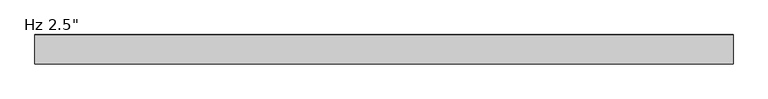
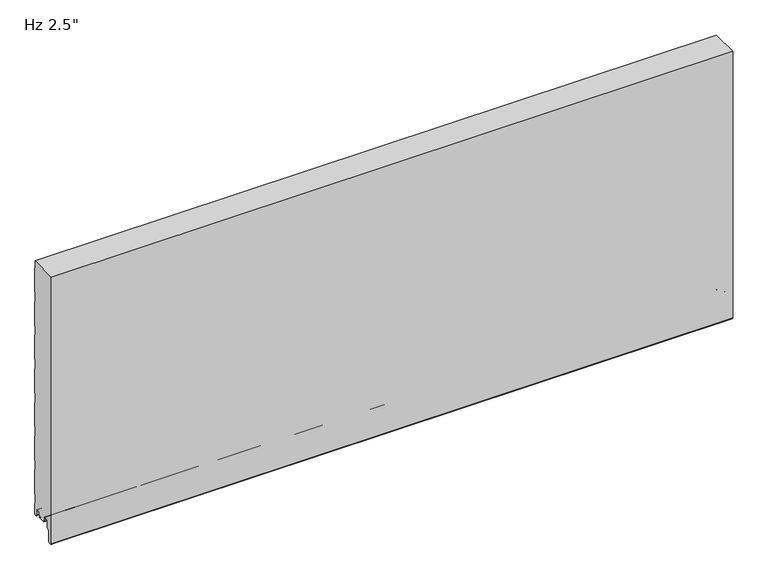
"""IFC4 building model written with IfcOpenShell, lengths in millimetres: plate geometry."""

from ifc_helpers import new_model, si_unit, frame, origin, place, context, project, spatial, polyline, circle_curve, source, transform, mapped, element, save
from ifc_brep_helpers import plane_surface, cylinder_surface, revolved_surface, advanced_brep


def plate_10a718c5(model_context):
    return source(origin(), model_context, "Body", "AdvancedBrep", [
        advanced_brep(
        [(-730.0, -35.1708959, 1.0316999), (-730.0, -34.0014212, 2.2328239), (-730.0, -34.0014212, 5.9912173), (-730.0, -35.3999001, 5.9912173), (-730.0, -35.3999001, 8.6903283), (-730.0, -38.7498954, 12.0403236), (-730.0, -43.1498866, 12.0403236), (-730.0, -46.4998819, 8.6903283), (-730.0, -46.4998819, -3.1205608), (-730.0, -46.9977988, -4.3226385), (-730.0, -52.4998699, -9.8247096), (-730.0, -52.4998699, -31.9198392), (-730.0, -54.7184719, -34.5765709), (-730.0, -59.7002927, -35.0125699), (-730.0, -62.4946177, -32.4521176), (-730.0, -62.5000209, 571.2), (-730.0, -2.2002516, 571.2), (-730.0, -2.2002516, 555.8186019), (-730.0, -1.0000209, 554.4329689), (-730.0, -1.0000209, 500.3795535), (-730.0, -2.2002516, 498.9939206), (-730.0, -2.2002516, 479.6187543), (-730.0, -1.0000209, 478.2331213), (-730.0, -1.0000209, 424.1797059), (-730.0, -2.2002516, 422.794073), (-730.0, -2.2002516, 403.4189067), (-730.0, -1.0000209, 402.0332737), (-730.0, -1.0000209, 347.9798583), (-730.0, -2.2002516, 346.5942254), (-730.0, -2.2002516, 327.2190591), (-730.0, -1.0000209, 325.8334261), (-730.0, -1.0000209, 271.7800107), (-730.0, -2.2002516, 270.3943778), (-730.0, -2.2002516, 251.0192115), (-730.0, -1.0000209, 249.6335785), (-730.0, -1.0000209, 195.5801631), (-730.0, -2.2002516, 194.1945302), (-730.0, -2.2002516, 174.8193639), (-730.0, -1.0000209, 173.4337309), (-730.0, -1.0000209, 119.3803155), (-730.0, -2.2002516, 117.9946826), (-730.0, -2.2002516, 98.6195163), (-730.0, -1.0000209, 97.2338833), (-730.0, -1.0000209, 43.1804679), (-730.0, -2.2002516, 41.794835), (-730.0, -2.2002516, 22.4196687), (-730.0, -1.0000126, 21.034026), (-730.0, -1.0000126, -3.4662506), (-730.0, -5.2315599, -3.4662506), (-730.0, -7.001554, -1.6962564), (-730.0, -7.001554, 8.7237222), (-730.0, -10.3015499, 12.023718), (-730.0, -14.7015411, 12.023718), (-730.0, -18.0015368, 8.7237223), (-730.0, -18.0015368, 6.0315125), (-730.0, -19.0015314, 6.0315125), (-730.0, -19.0015314, 2.0313089), (-730.0, -18.0015401, 1.0313117), (-730.0, -19.0328517, 0.0), (-730.0, -34.139196, 0.0), (730.0, -35.1708959, 1.0316999), (730.0, -34.139196, 0.0), (730.0, -19.0328517, 0.0), (730.0, -18.0015401, 1.0313117), (730.0, -19.0015314, 2.0313089), (730.0, -19.0015314, 6.0315125), (730.0, -18.0015368, 6.0315125), (730.0, -18.0015368, 8.7237223), (730.0, -14.7015411, 12.023718), (730.0, -10.3015499, 12.023718), (730.0, -7.001554, 8.7237222), (730.0, -7.001554, -1.6962564), (730.0, -5.2315599, -3.4662506), (730.0, -1.0000126, -3.4662506), (730.0, -1.0000126, 21.034026), (730.0, -2.2002516, 22.4196687), (730.0, -2.2002516, 41.794835), (730.0, -1.0000209, 43.1804679), (730.0, -1.0000209, 97.2338833), (730.0, -2.2002516, 98.6195163), (730.0, -2.2002516, 117.9946826), (730.0, -1.0000209, 119.3803155), (730.0, -1.0000209, 173.4337309), (730.0, -2.2002516, 174.8193639), (730.0, -2.2002516, 194.1945302), (730.0, -1.0000209, 195.5801631), (730.0, -1.0000209, 249.6335785), (730.0, -2.2002516, 251.0192115), (730.0, -2.2002516, 270.3943778), (730.0, -1.0000209, 271.7800107), (730.0, -1.0000209, 325.8334261), (730.0, -2.2002516, 327.2190591), (730.0, -2.2002516, 346.5942254), (730.0, -1.0000209, 347.9798583), (730.0, -1.0000209, 402.0332737), (730.0, -2.2002516, 403.4189067), (730.0, -2.2002516, 422.794073), (730.0, -1.0000209, 424.1797059), (730.0, -1.0000209, 478.2331213), (730.0, -2.2002516, 479.6187543), (730.0, -2.2002516, 498.9939206), (730.0, -1.0000209, 500.3795535), (730.0, -1.0000209, 554.4329689), (730.0, -2.2002516, 555.8186019), (730.0, -2.2002516, 571.2), (730.0, -62.5000209, 571.2), (730.0, -62.5000209, -32.4521176), (730.0, -59.7002927, -35.0125699), (730.0, -54.7184719, -34.5765709), (730.0, -52.4998699, -31.9198392), (730.0, -52.4998699, -9.8247096), (730.0, -46.9977988, -4.3226385), (730.0, -46.4998819, -3.1205608), (730.0, -46.4998819, 8.6903283), (730.0, -43.1498866, 12.0403236), (730.0, -38.7498954, 12.0403236), (730.0, -35.3999001, 8.6903283), (730.0, -35.3999001, 5.9912173), (730.0, -34.0014212, 5.9912173), (730.0, -34.0014212, 2.2328239)],
        [
            (0, 1, circle_curve(frame((-730.0, -35.2014178, 2.2313092), z_axis=(1.0, 0.0, 0.0), x_axis=(0.0, 0.0, -1.0)), 1.1999976)),
            (1, 2),
            (2, 3),
            (3, 4),
            (4, 5, circle_curve(frame((-730.0, -38.7498954, 8.6903283), z_axis=(1.0, 0.0, 0.0), x_axis=(0.0, 0.0, -1.0)), 3.3499953)),
            (5, 6),
            (6, 7, circle_curve(frame((-730.0, -43.1498866, 8.6903283), z_axis=(1.0, 0.0, 0.0), x_axis=(0.0, 0.0, -1.0)), 3.3499953)),
            (7, 8),
            (8, 9, circle_curve(frame((-730.0, -48.1998765, -3.1205608), z_axis=(-1.0, 0.0, 0.0), x_axis=(0.0, 0.0, -1.0)), 1.6999946)),
            (9, 10),
            (10, 11),
            (11, 12, circle_curve(frame((-730.0, -55.1998625, -31.9198392), z_axis=(-1.0, 0.0, 0.0), x_axis=(0.0, 0.0, -1.0)), 2.6999926)),
            (12, 13),
            (13, 14, circle_curve(frame((-730.0, -59.9243784, -32.4521176), z_axis=(-1.0, 0.0, 0.0), x_axis=(0.0, 0.0, -1.0)), 2.5702393)),
            (14, 15),
            (15, 16),
            (16, 17),
            (17, 18),
            (18, 19),
            (19, 20),
            (20, 21),
            (21, 22),
            (22, 23),
            (23, 24),
            (24, 25),
            (25, 26),
            (26, 27),
            (27, 28),
            (28, 29),
            (29, 30),
            (30, 31),
            (31, 32),
            (32, 33),
            (33, 34),
            (34, 35),
            (35, 36),
            (36, 37),
            (37, 38),
            (38, 39),
            (39, 40),
            (40, 41),
            (41, 42),
            (42, 43),
            (43, 44),
            (44, 45),
            (45, 46),
            (46, 47),
            (47, 48),
            (48, 49, circle_curve(frame((-730.0, -5.2315599, -1.6962564), z_axis=(-1.0, 0.0, 0.0), x_axis=(0.0, 0.0, 1.0)), 1.7699942)),
            (49, 50),
            (50, 51, circle_curve(frame((-730.0, -10.3015499, 8.7237222), z_axis=(1.0, 0.0, 0.0), x_axis=(0.0, 0.0, 1.0)), 3.2999959)),
            (51, 52),
            (52, 53, circle_curve(frame((-730.0, -14.7015411, 8.7237223), z_axis=(1.0, 0.0, 0.0), x_axis=(0.0, 0.0, 1.0)), 3.2999957)),
            (53, 54),
            (54, 55),
            (55, 56),
            (56, 57, circle_curve(frame((-730.0, -18.0015342, 2.0313089), z_axis=(1.0, 0.0, 0.0), x_axis=(0.0, 0.0, 1.0)), 0.9999972)),
            (57, 58),
            (58, 59),
            (59, 0),
            (60, 61),
            (61, 62),
            (62, 63),
            (63, 64, circle_curve(frame((730.0, -18.0015342, 2.0313089), z_axis=(-1.0, 0.0, 0.0), x_axis=(0.0, 0.0, 1.0)), 0.9999972)),
            (64, 65),
            (65, 66),
            (66, 67),
            (67, 68, circle_curve(frame((730.0, -14.7015411, 8.7237223), z_axis=(-1.0, 0.0, 0.0), x_axis=(0.0, 0.0, 1.0)), 3.2999957)),
            (68, 69),
            (69, 70, circle_curve(frame((730.0, -10.3015499, 8.7237222), z_axis=(-1.0, 0.0, 0.0), x_axis=(0.0, 0.0, 1.0)), 3.2999959)),
            (70, 71),
            (71, 72, circle_curve(frame((730.0, -5.2315599, -1.6962564), z_axis=(1.0, 0.0, 0.0), x_axis=(0.0, 0.0, 1.0)), 1.7699942)),
            (72, 73),
            (73, 74),
            (74, 75),
            (75, 76),
            (76, 77),
            (77, 78),
            (78, 79),
            (79, 80),
            (80, 81),
            (81, 82),
            (82, 83),
            (83, 84),
            (84, 85),
            (85, 86),
            (86, 87),
            (87, 88),
            (88, 89),
            (89, 90),
            (90, 91),
            (91, 92),
            (92, 93),
            (93, 94),
            (94, 95),
            (95, 96),
            (96, 97),
            (97, 98),
            (98, 99),
            (99, 100),
            (100, 101),
            (101, 102),
            (102, 103),
            (103, 104),
            (104, 105),
            (105, 106),
            (106, 107, circle_curve(frame((730.0, -59.9243784, -32.4521176), z_axis=(1.0, 0.0, 0.0), x_axis=(0.0, 0.0, -1.0)), 2.5702393)),
            (107, 108),
            (108, 109, circle_curve(frame((730.0, -55.1998625, -31.9198392), z_axis=(1.0, 0.0, 0.0), x_axis=(0.0, 0.0, -1.0)), 2.6999926)),
            (109, 110),
            (110, 111),
            (111, 112, circle_curve(frame((730.0, -48.1998765, -3.1205608), z_axis=(1.0, 0.0, 0.0), x_axis=(0.0, 0.0, -1.0)), 1.6999946)),
            (112, 113),
            (113, 114, circle_curve(frame((730.0, -43.1498866, 8.6903283), z_axis=(-1.0, 0.0, 0.0), x_axis=(0.0, 0.0, -1.0)), 3.3499953)),
            (114, 115),
            (115, 116, circle_curve(frame((730.0, -38.7498954, 8.6903283), z_axis=(-1.0, 0.0, 0.0), x_axis=(0.0, 0.0, -1.0)), 3.3499953)),
            (116, 117),
            (117, 118),
            (118, 119),
            (119, 60, circle_curve(frame((730.0, -35.2014178, 2.2313092), z_axis=(-1.0, 0.0, 0.0), x_axis=(0.0, 0.0, -1.0)), 1.1999976)),
            (59, 61),
            (60, 0),
            (58, 62),
            (105, 15),
            (14, 106),
            (13, 107),
            (12, 108),
            (11, 109),
            (10, 110),
            (9, 111),
            (8, 112),
            (7, 113),
            (6, 114),
            (5, 115),
            (4, 116),
            (3, 117),
            (2, 118),
            (1, 119),
            (104, 16),
            (57, 63),
            (56, 64),
            (55, 65),
            (54, 66),
            (53, 67),
            (52, 68),
            (51, 69),
            (50, 70),
            (49, 71),
            (48, 72),
            (47, 73),
            (46, 74),
            (45, 75),
            (44, 76),
            (43, 77),
            (42, 78),
            (41, 79),
            (40, 80),
            (39, 81),
            (38, 82),
            (37, 83),
            (36, 84),
            (35, 85),
            (34, 86),
            (33, 87),
            (32, 88),
            (31, 89),
            (30, 90),
            (29, 91),
            (28, 92),
            (27, 93),
            (26, 94),
            (25, 95),
            (24, 96),
            (23, 97),
            (22, 98),
            (21, 99),
            (20, 100),
            (19, 101),
            (18, 102),
            (17, 103),
        ],
        [
            plane_surface(frame((-730.0, -62.5000209, 457.2), z_axis=(-1.0, 0.0, 0.0), x_axis=(0.0, -1.0, 0.0))),
            plane_surface(frame((730.0, -62.5000209, 457.2), z_axis=(1.0, 0.0, 0.0), x_axis=(0.0, -1.0, 0.0))),
            plane_surface(frame((-730.0, -35.1708959, 1.0316999), z_axis=(0.0, -0.7071067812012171, -0.707106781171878), x_axis=(1.0, 0.0, 0.0))),
            plane_surface(frame((-730.0, -34.139196, 0.0), z_axis=(0.0, 0.0, -1.0), x_axis=(1.0, 0.0, 0.0))),
            plane_surface(frame((-730.0, -62.5000209, 865.915622), z_axis=(0.0, -1.0, 0.0), x_axis=(1.0, 0.0, 0.0))),
            cylinder_surface(frame((-730.0, -59.9243784, -32.4521176), z_axis=(-1.0, 0.0, 0.0), x_axis=(0.0, 0.0, -1.0)), 2.5702393),
            plane_surface(frame((-730.0, -59.7002927, -35.0125699), z_axis=(0.0, 0.08718474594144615, -0.9961921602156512), x_axis=(1.0, 0.0, 0.0))),
            cylinder_surface(frame((-730.0, -55.1998625, -31.9198392), z_axis=(-1.0, 0.0, 0.0), x_axis=(0.0, 0.0, -1.0)), 2.6999926),
            plane_surface(frame((-730.0, -52.4998699, -31.9198392), z_axis=(0.0, 1.0, 0.0), x_axis=(1.0, 0.0, 0.0))),
            plane_surface(frame((-730.0, -52.4998699, -9.8247096), z_axis=(0.0, 0.7071067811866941, -0.707106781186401), x_axis=(1.0, 0.0, 0.0))),
            cylinder_surface(frame((-730.0, -48.1998765, -3.1205608), z_axis=(-1.0, 0.0, 0.0), x_axis=(0.0, 0.0, -1.0)), 1.6999946),
            plane_surface(frame((-730.0, -46.4998819, -3.1205608), z_axis=(0.0, 1.0, 0.0), x_axis=(1.0, 0.0, 0.0))),
            revolved_surface(polyline([(730.0, -43.1498866, 5.340332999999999), (-730.0, -43.1498866, 5.340332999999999)]), (-730.0, -43.1498866, 8.6903283), (1.0, 0.0, 0.0)),
            plane_surface(frame((-730.0, -43.1498866, 12.0403236), z_axis=(0.0, 0.0, -1.0), x_axis=(1.0, 0.0, 0.0))),
            revolved_surface(polyline([(730.0, -38.7498954, 5.340332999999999), (-730.0, -38.7498954, 5.340332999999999)]), (-730.0, -38.7498954, 8.6903283), (1.0, 0.0, 0.0)),
            plane_surface(frame((-730.0, -35.3999001, 8.6903283), z_axis=(0.0, -1.0, 0.0), x_axis=(1.0, 0.0, 0.0))),
            plane_surface(frame((-730.0, -35.3999001, 5.9912173), z_axis=(0.0, 0.0, -1.0), x_axis=(1.0, 0.0, 0.0))),
            plane_surface(frame((-730.0, -34.0014212, 5.9912173), z_axis=(0.0, -1.0, 0.0), x_axis=(1.0, 0.0, 0.0))),
            revolved_surface(polyline([(730.0, -35.2014178, 1.0313116), (-730.0, -35.2014178, 1.0313116)]), (-730.0, -35.2014178, 2.2313092), (1.0, 0.0, 0.0)),
            plane_surface(frame((730.0, 9.9999791, 571.2), z_axis=(0.0, 0.0, 1.0), x_axis=(-1.0, 0.0, 0.0))),
            plane_surface(frame((-730.0, -19.0328517, 0.0), z_axis=(0.0, 0.7071067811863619, -0.7071067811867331), x_axis=(1.0, 0.0, 0.0))),
            revolved_surface(polyline([(730.0, -18.0015342, 3.0313061), (-730.0, -18.0015342, 3.0313061)]), (-730.0, -18.0015342, 2.0313089), (1.0, 0.0, 0.0)),
            plane_surface(frame((-730.0, -19.0015314, 2.0313089), z_axis=(0.0, 1.0, 0.0), x_axis=(1.0, 0.0, 0.0))),
            plane_surface(frame((-730.0, -19.0015314, 6.0315125), z_axis=(0.0, 0.0, -1.0), x_axis=(1.0, 0.0, 0.0))),
            plane_surface(frame((-730.0, -18.0015368, 6.0315125), z_axis=(0.0, 1.0, 0.0), x_axis=(1.0, 0.0, 0.0))),
            revolved_surface(polyline([(730.0, -14.7015411, 12.023718), (-730.0, -14.7015411, 12.023718)]), (-730.0, -14.7015411, 8.7237223), (1.0, 0.0, 0.0)),
            plane_surface(frame((-730.0, -14.7015411, 12.023718), z_axis=(0.0, 0.0, -1.0), x_axis=(1.0, 0.0, 0.0))),
            revolved_surface(polyline([(730.0, -10.3015499, 12.0237181), (-730.0, -10.3015499, 12.0237181)]), (-730.0, -10.3015499, 8.7237222), (1.0, 0.0, 0.0)),
            plane_surface(frame((-730.0, -7.001554, 8.7237222), z_axis=(0.0, -1.0, 0.0), x_axis=(1.0, 0.0, 0.0))),
            cylinder_surface(frame((-730.0, -5.2315599, -1.6962564), z_axis=(-1.0, 0.0, 0.0), x_axis=(0.0, 0.0, 1.0)), 1.7699942),
            plane_surface(frame((-730.0, -5.2315599, -3.4662506), z_axis=(0.0, 0.0, -1.0), x_axis=(1.0, 0.0, 0.0))),
            plane_surface(frame((-730.0, -1.0000126, -3.4662506), z_axis=(0.0, 1.0, 0.0), x_axis=(1.0, 0.0, 0.0))),
            plane_surface(frame((-730.0, -1.0000126, 21.034026), z_axis=(0.0, 0.7558648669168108, 0.6547276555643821), x_axis=(1.0, 0.0, 0.0))),
            plane_surface(frame((-730.0, -2.2002516, 22.4196687), z_axis=(0.0, 1.0, 0.0), x_axis=(1.0, 0.0, 0.0))),
            plane_surface(frame((-730.0, -2.2002516, 41.794835), z_axis=(0.0, 0.7558648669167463, -0.6547276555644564), x_axis=(1.0, 0.0, 0.0))),
            plane_surface(frame((-730.0, -1.0000209, 43.1804679), z_axis=(0.0, 1.0, 0.0), x_axis=(1.0, 0.0, 0.0))),
            plane_surface(frame((-730.0, -1.0000209, 97.2338833), z_axis=(0.0, 0.7558648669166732, 0.6547276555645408), x_axis=(1.0, 0.0, 0.0))),
            plane_surface(frame((-730.0, -2.2002516, 98.6195163), z_axis=(0.0, 1.0, 0.0), x_axis=(1.0, 0.0, 0.0))),
            plane_surface(frame((-730.0, -2.2002516, 117.9946826), z_axis=(0.0, 0.7558648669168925, -0.6547276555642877), x_axis=(1.0, 0.0, 0.0))),
            plane_surface(frame((-730.0, -1.0000209, 119.3803155), z_axis=(0.0, 1.0, 0.0), x_axis=(1.0, 0.0, 0.0))),
            plane_surface(frame((-730.0, -1.0000209, 173.4337309), z_axis=(0.0, 0.7558648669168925, 0.6547276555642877), x_axis=(1.0, 0.0, 0.0))),
            plane_surface(frame((-730.0, -2.2002516, 174.8193639), z_axis=(0.0, 1.0, 0.0), x_axis=(1.0, 0.0, 0.0))),
            plane_surface(frame((-730.0, -2.2002516, 194.1945302), z_axis=(0.0, 0.7558648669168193, -0.6547276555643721), x_axis=(1.0, 0.0, 0.0))),
            plane_surface(frame((-730.0, -1.0000209, 195.5801631), z_axis=(0.0, 1.0, 0.0), x_axis=(1.0, 0.0, 0.0))),
            plane_surface(frame((-730.0, -1.0000209, 249.6335785), z_axis=(0.0, 0.7558648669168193, 0.6547276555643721), x_axis=(1.0, 0.0, 0.0))),
            plane_surface(frame((-730.0, -2.2002516, 251.0192115), z_axis=(0.0, 1.0, 0.0), x_axis=(1.0, 0.0, 0.0))),
            plane_surface(frame((-730.0, -2.2002516, 270.3943778), z_axis=(0.0, 0.7558648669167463, -0.6547276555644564), x_axis=(1.0, 0.0, 0.0))),
            plane_surface(frame((-730.0, -1.0000209, 271.7800107), z_axis=(0.0, 1.0, 0.0), x_axis=(1.0, 0.0, 0.0))),
            plane_surface(frame((-730.0, -1.0000209, 325.8334261), z_axis=(0.0, 0.7558648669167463, 0.6547276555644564), x_axis=(1.0, 0.0, 0.0))),
            plane_surface(frame((-730.0, -2.2002516, 327.2190591), z_axis=(0.0, 1.0, 0.0), x_axis=(1.0, 0.0, 0.0))),
            plane_surface(frame((-730.0, -2.2002516, 346.5942254), z_axis=(0.0, 0.7558648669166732, -0.6547276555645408), x_axis=(1.0, 0.0, 0.0))),
            plane_surface(frame((-730.0, -1.0000209, 347.9798583), z_axis=(0.0, 1.0, 0.0), x_axis=(1.0, 0.0, 0.0))),
            plane_surface(frame((-730.0, -1.0000209, 402.0332737), z_axis=(0.0, 0.7558648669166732, 0.6547276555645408), x_axis=(1.0, 0.0, 0.0))),
            plane_surface(frame((-730.0, -2.2002516, 403.4189067), z_axis=(0.0, 1.0, 0.0), x_axis=(1.0, 0.0, 0.0))),
            plane_surface(frame((-730.0, -2.2002516, 422.794073), z_axis=(0.0, 0.755864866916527, -0.6547276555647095), x_axis=(1.0, 0.0, 0.0))),
            plane_surface(frame((-730.0, -1.0000209, 424.1797059), z_axis=(0.0, 1.0, 0.0), x_axis=(1.0, 0.0, 0.0))),
            plane_surface(frame((-730.0, -1.0000209, 478.2331213), z_axis=(0.0, 0.755864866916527, 0.6547276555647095), x_axis=(1.0, 0.0, 0.0))),
            plane_surface(frame((-730.0, -2.2002516, 479.6187543), z_axis=(0.0, 1.0, 0.0), x_axis=(1.0, 0.0, 0.0))),
            plane_surface(frame((-730.0, -2.2002516, 498.9939206), z_axis=(0.0, 0.755864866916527, -0.6547276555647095), x_axis=(1.0, 0.0, 0.0))),
            plane_surface(frame((-730.0, -1.0000209, 500.3795535), z_axis=(0.0, 1.0, 0.0), x_axis=(1.0, 0.0, 0.0))),
            plane_surface(frame((-730.0, -1.0000209, 554.4329689), z_axis=(0.0, 0.755864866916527, 0.6547276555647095), x_axis=(1.0, 0.0, 0.0))),
            plane_surface(frame((-730.0, -2.2002516, 555.8186019), z_axis=(0.0, 1.0, 0.0), x_axis=(1.0, 0.0, 0.0))),
        ],
        [
            (0, [[1, 2, 3, 4, 5, 6, 7, 8, 9, 10, 11, 12, 13, 14, 15, 16, 17, 18, 19, 20, 21, 22, 23, 24, 25, 26, 27, 28, 29, 30, 31, 32, 33, 34, 35, 36, 37, 38, 39, 40, 41, 42, 43, 44, 45, 46, 47, 48, 49, 50, 51, 52, 53, 54, 55, 56, 57, 58, 59, 60]]),
            (1, [[61, 62, 63, 64, 65, 66, 67, 68, 69, 70, 71, 72, 73, 74, 75, 76, 77, 78, 79, 80, 81, 82, 83, 84, 85, 86, 87, 88, 89, 90, 91, 92, 93, 94, 95, 96, 97, 98, 99, 100, 101, 102, 103, 104, 105, 106, 107, 108, 109, 110, 111, 112, 113, 114, 115, 116, 117, 118, 119, 120]]),
            (2, [[121, -61, 122, -60]]),
            (3, [[-59, 123, -62, -121]]),
            (4, [[-106, 124, -15, 125]]),
            (5, [[126, -107, -125, -14]]),
            (6, [[127, -108, -126, -13]]),
            (7, [[128, -109, -127, -12]]),
            (8, [[129, -110, -128, -11]]),
            (9, [[130, -111, -129, -10]]),
            (10, [[131, -112, -130, -9]]),
            (11, [[132, -113, -131, -8]]),
            (12, [[133, -114, -132, -7]]),
            (13, [[134, -115, -133, -6]]),
            (14, [[135, -116, -134, -5]]),
            (15, [[136, -117, -135, -4]]),
            (16, [[137, -118, -136, -3]]),
            (17, [[138, -119, -137, -2]]),
            (18, [[-122, -120, -138, -1]]),
            (19, [[-124, -105, 139, -16]]),
            (20, [[140, -63, -123, -58]]),
            (21, [[141, -64, -140, -57]]),
            (22, [[142, -65, -141, -56]]),
            (23, [[143, -66, -142, -55]]),
            (24, [[144, -67, -143, -54]]),
            (25, [[145, -68, -144, -53]]),
            (26, [[146, -69, -145, -52]]),
            (27, [[147, -70, -146, -51]]),
            (28, [[148, -71, -147, -50]]),
            (29, [[149, -72, -148, -49]]),
            (30, [[150, -73, -149, -48]]),
            (31, [[151, -74, -150, -47]]),
            (32, [[152, -75, -151, -46]]),
            (33, [[153, -76, -152, -45]]),
            (34, [[154, -77, -153, -44]]),
            (35, [[155, -78, -154, -43]]),
            (36, [[156, -79, -155, -42]]),
            (37, [[157, -80, -156, -41]]),
            (38, [[158, -81, -157, -40]]),
            (39, [[159, -82, -158, -39]]),
            (40, [[160, -83, -159, -38]]),
            (41, [[161, -84, -160, -37]]),
            (42, [[162, -85, -161, -36]]),
            (43, [[163, -86, -162, -35]]),
            (44, [[164, -87, -163, -34]]),
            (45, [[165, -88, -164, -33]]),
            (46, [[166, -89, -165, -32]]),
            (47, [[167, -90, -166, -31]]),
            (48, [[168, -91, -167, -30]]),
            (49, [[169, -92, -168, -29]]),
            (50, [[170, -93, -169, -28]]),
            (51, [[171, -94, -170, -27]]),
            (52, [[172, -95, -171, -26]]),
            (53, [[173, -96, -172, -25]]),
            (54, [[174, -97, -173, -24]]),
            (55, [[175, -98, -174, -23]]),
            (56, [[176, -99, -175, -22]]),
            (57, [[177, -100, -176, -21]]),
            (58, [[178, -101, -177, -20]]),
            (59, [[179, -102, -178, -19]]),
            (60, [[180, -103, -179, -18]]),
            (61, [[-17, -139, -104, -180]]),
        ],
    ),
    ])


if __name__ == "__main__":
    model = new_model("IFC4")
    model_context = context("Model", 3, world=origin())
    ifc_project = project(units=[si_unit("LENGTHUNIT", "METRE", prefix="MILLI")], contexts=[model_context])
    site = spatial("IfcSite", under=ifc_project)
    building = spatial("IfcBuilding", under=site)
    placement = place(None, origin())
    plate_shape = plate_10a718c5(model_context)
    element("IfcPlate", 1, ObjectType="KIP-36-Karrier-KP-R19-CP-Hz-FL3-8in_SL : Hz 2.5\"", at=placement, inside=building, context=model_context, shape_type="MappedRepresentation", body=[
        mapped(plate_shape, transform((0.0, 0.0, 0.0), x_axis=(1.0, 0.0, 0.0), y_axis=(0.0, 1.0, 0.0), z_axis=(0.0, 0.0, 1.0))),
    ])
    save(model, "model.ifc")
